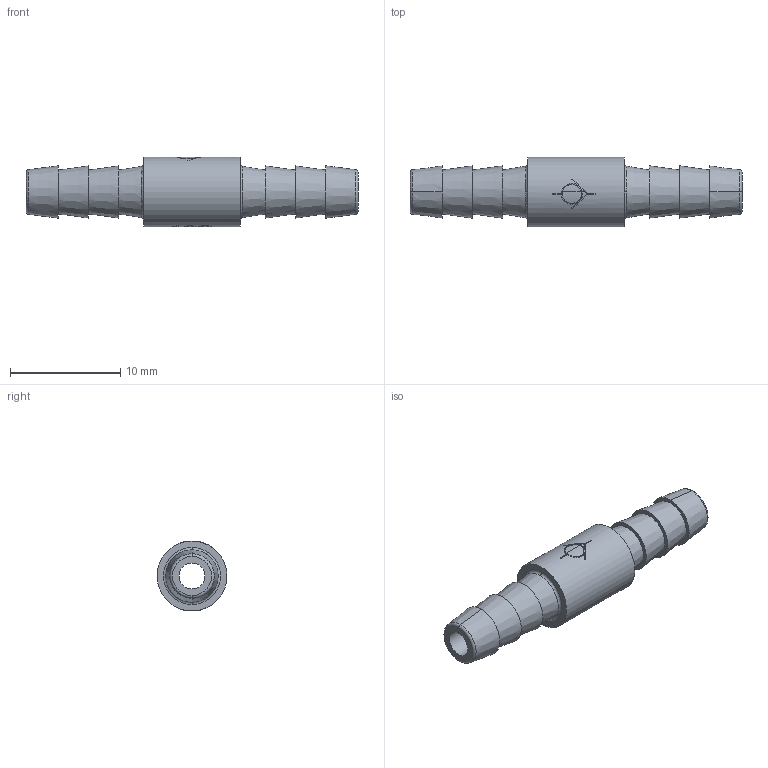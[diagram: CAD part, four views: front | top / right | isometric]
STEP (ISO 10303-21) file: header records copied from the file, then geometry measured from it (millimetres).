
FILE_DESCRIPTION(/* description */ ('SolidWorks IGES file using NURBS representation for surfaces '),/* implementation_level */ '2;1');
FILE_NAME(/* name */ 'K:\Normteile INVENTOR\Air-Logic\Check Valves\F-2804-402-B85.IGS.ipt.stp',/* time_stamp */ '2020-05-27T10:36:07+02:00',/* author */ ('amarsh'),/* organization */ (''),/* preprocessor_version */ 'ST-DEVELOPER v18',/* originating_system */ 'Autodesk Inventor 2020',/* authorisation */ '');
FILE_SCHEMA (('AUTOMOTIVE_DESIGN { 1 0 10303 214 3 1 1 }'));
Length unit declared in the file: millimetre
Products named in the file (1): F-2804-402-B85.IGS
Bounding box: 30.15 x 6.35 x 6.35 mm (x, y, z)
Surface area: 767.6 mm2 (no closed solid volume)
Topology: 0 solids, 2 shells, 95 faces, 254 edges, 175 vertices
Faces by surface type: bspline 35, plane 29, cylinder 13, cone 10, torus 8
Full cylindrical faces by diameter (mm): 2.36 x1, 6.35 x1
Entity records: 5813 total; most frequent: CARTESIAN_POINT 3551, ORIENTED_EDGE 500, DIRECTION 375, EDGE_CURVE 254, VERTEX_POINT 175, AXIS2_PLACEMENT_3D 140, EDGE_LOOP 111, LINE 95
